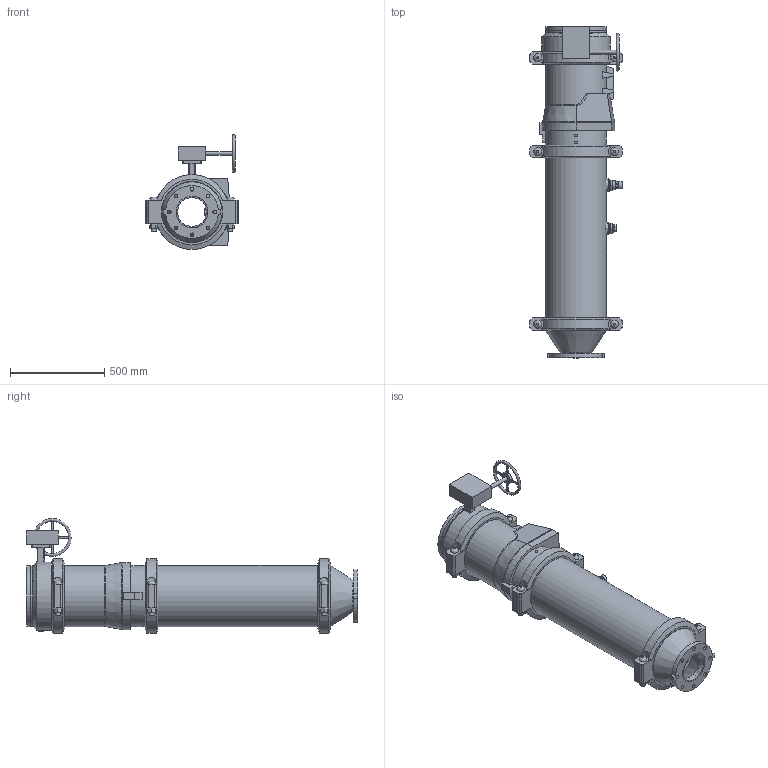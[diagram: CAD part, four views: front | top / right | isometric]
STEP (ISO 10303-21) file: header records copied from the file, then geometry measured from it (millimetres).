
FILE_DESCRIPTION(/* description */ ('VIC DVI PUMP DROP VERT S/380 (OGSxFLG) (S/924-0.75)','CAx-IF Rec.Pracs.---Representation and Presentation of Product Manufacturing Information (PMI)---4.0---2014-10-13'),/* implementation_level */ '2;1');
FILE_NAME(/* name */ 'C:\Users\Public\Documents\Victaulic.Temp\A765\Victaulic_IPS_Vertical DVI_CL 150_Series 380 (OGSxFLG)_924 (0.75)_12.0x06.0 (300x150).stp',/* time_stamp */ '2022-07-25T11:14:38+02:00',/* author */ ('Vjadhav'),/* organization */ ('Victaulic'),/* preprocessor_version */ 'ST-DEVELOPER v18',/* originating_system */ 'Autodesk Inventor 2020',/* authorisation */ '');
FILE_SCHEMA (('AP242_MANAGED_MODEL_BASED_3D_ENGINEERING_MIM_LF { 1 0 10303 442 1 1 4 }'));
Length unit declared in the file: inch
Products named in the file (9): 380_924 (0.75)-12.0x06.0; 741-06.0; 050-12.0x06.0; Pipe-12.0; 779-12.0; 923-10.0x0.75; 924-10.0x0.75; 761-12.0; 077-12.0
Assembly tree (10 placements, depth 2):
  380_924 (0.75)-12.0x06.0
    741-06.0
    050-12.0x06.0
    Pipe-12.0
    779-12.0
    923-10.0x0.75
    924-10.0x0.75
    761-12.0
    077-12.0  x3
Bounding box: 488.95 x 1760.22 x 609.46 mm (x, y, z)
Volume: 37346658.9 mm3; surface area: 5012199.3 mm2
Topology: 10 solids, 17 shells, 494 faces, 1242 edges, 846 vertices
Faces by surface type: plane 299, cylinder 160, cone 20, bspline 8, torus 7
Full cylindrical faces by diameter (mm): 10.922 x4, 13.716 x4, 19.05 x8, 20.066 x1, 21.336 x1, 22.86 x1, 25.4 x12, 26.67 x2, 27.432 x6, 31.75 x1, 38.608 x1, 45.974 x4, 55.626 x2, 63.079 x1, 70.104 x1, 76.2 x1, 154.051 x1, 163.957 x1, 168.275 x3, 303.225 x2, 304.8 x2, 314.96 x3, 318.287 x7, 323.85 x19, 361.95 x1
Entity records: 12775 total; most frequent: CARTESIAN_POINT 2550, DIRECTION 2078, ORIENTED_EDGE 1904, EDGE_CURVE 952, AXIS2_PLACEMENT_3D 792, VERTEX_POINT 650, LINE 494, VECTOR 494
